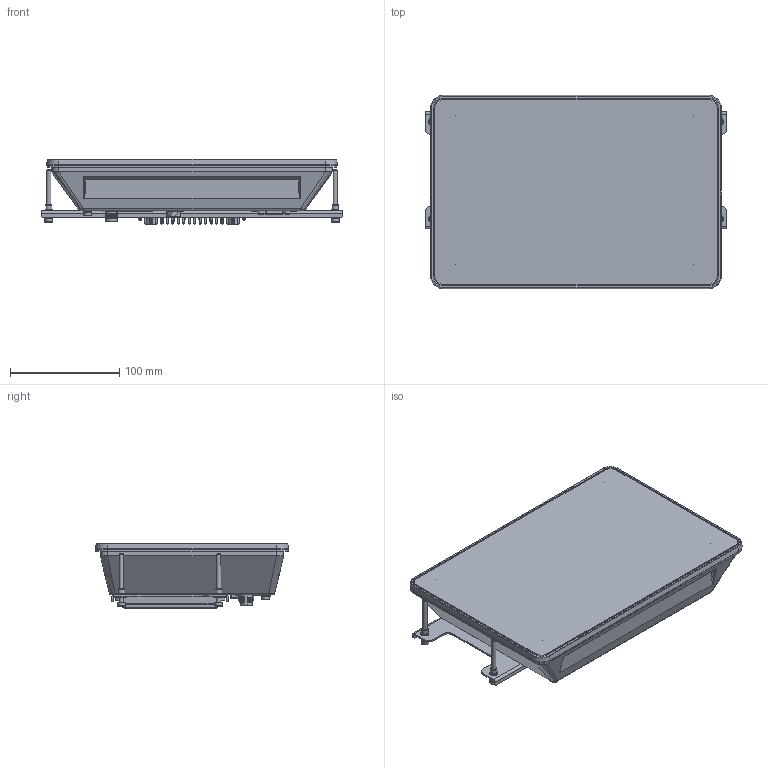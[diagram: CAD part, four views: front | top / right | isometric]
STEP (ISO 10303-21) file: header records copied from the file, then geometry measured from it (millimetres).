
FILE_DESCRIPTION(/* description */ (''),/* implementation_level */ '2;1');
FILE_NAME(/* name */ 'D:\Modelle vereinfacht\notion.F\778-21998-01\Index 2\778-21998-01_02_EXTERN.stp',/* time_stamp */ '2023-09-29T11:08:19+02:00',/* author */ ('Blessing'),/* organization */ (''),/* preprocessor_version */ 'ST-DEVELOPER v18.1',/* originating_system */ 'Autodesk Inventor 2021',/* authorisation */ '');
FILE_SCHEMA (('AUTOMOTIVE_DESIGN { 1 0 10303 214 3 1 1 }'));
Products named in the file (3): Baugruppe2; 778-21998-01_02_EXTERN; Einbau Montagekit_EXTERN
Assembly tree (2 placements, depth 2):
  Baugruppe2
    778-21998-01_02_EXTERN
    Einbau Montagekit_EXTERN
Bounding box: 276 x 176.67 x 59.73 mm (x, y, z)
Volume: 1890079.9 mm3; surface area: 249174.9 mm2
Topology: 3 solids, 18 shells, 7933 faces, 20692 edges, 13159 vertices
Faces by surface type: plane 3799, bspline 2116, cylinder 1744, cone 204, torus 62, sphere 8
Full cylindrical faces by diameter (mm): 1.05 x4, 1.1 x1, 1.5 x4, 2.17 x4, 2.845 x2, 3.2 x2, 3.242 x9, 3.8 x6, 4 x13, 4.3 x5, 4.4 x4, 4.6 x2, 5 x4, 5.54 x6, 5.9 x8, 6 x5, 6.5 x2, 7 x9, 8.3 x1, 8.35 x1, 9 x4, 9.45 x1, 9.6 x1, 10.95 x5, 13.917 x1
Entity records: 294498 total; most frequent: CARTESIAN_POINT 107640, ORIENTED_EDGE 41224, DIRECTION 32304, EDGE_CURVE 20612, VERTEX_POINT 13161, LINE 12338, VECTOR 12338, AXIS2_PLACEMENT_3D 9983
